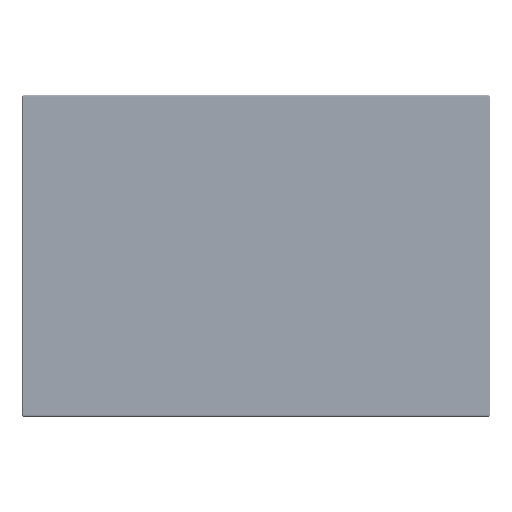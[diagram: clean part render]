
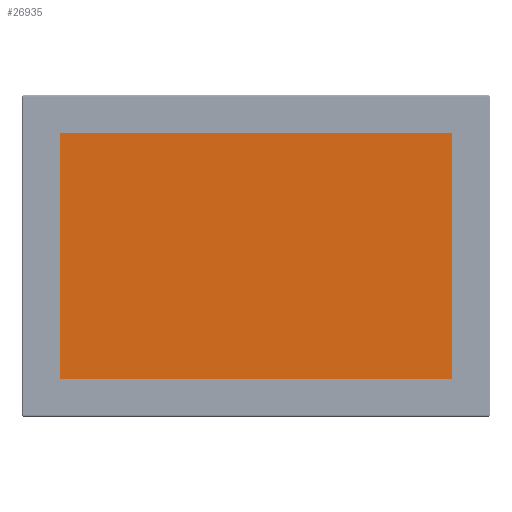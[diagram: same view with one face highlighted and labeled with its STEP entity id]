
A CAD part, top view. The second image highlights one B-rep face of the part: STEP entity #26935.
In plain terms, the highlighted planar face has unit normal (0, 0, 1).
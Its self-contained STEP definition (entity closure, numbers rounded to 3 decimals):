
#2233 = VECTOR ( 'NONE', #28180, 1000. ) ;
#2822 = VECTOR ( 'NONE', #57323, 1000. ) ;
#13463 = VERTEX_POINT ( 'NONE', #87486 ) ;
#15663 = DIRECTION ( 'NONE',  ( 0., -1., 0. ) ) ;
#18583 = DIRECTION ( 'NONE',  ( -1., 0., 0. ) ) ;
#19599 = LINE ( 'NONE', #185845, #189782 ) ;
#25451 = CARTESIAN_POINT ( 'NONE',  ( -131.16, 82.2, 0. ) ) ;
#26935 = ADVANCED_FACE ( 'NONE', ( #111913 ), #172612, .T. ) ;
#28180 = DIRECTION ( 'NONE',  ( 0., 1., 0. ) ) ;
#50367 = CARTESIAN_POINT ( 'NONE',  ( 131.16, 82.2, 0. ) ) ;
#57323 = DIRECTION ( 'NONE',  ( 1., 0., 0. ) ) ;
#59087 = LINE ( 'NONE', #162656, #2233 ) ;
#79077 = EDGE_CURVE ( 'NONE', #13463, #131256, #172799, .T. ) ;
#87237 = CARTESIAN_POINT ( 'NONE',  ( -131.16, -82.2, 0. ) ) ;
#87486 = CARTESIAN_POINT ( 'NONE',  ( 131.16, 82.2, 0. ) ) ;
#87861 = EDGE_LOOP ( 'NONE', ( #184274, #181342, #121861, #110528 ) ) ;
#110528 = ORIENTED_EDGE ( 'NONE', *, *, #159324, .T. ) ;
#111913 = FACE_OUTER_BOUND ( 'NONE', #87861, .T. ) ;
#117302 = CARTESIAN_POINT ( 'NONE',  ( 131.16, -82.2, 0. ) ) ;
#121861 = ORIENTED_EDGE ( 'NONE', *, *, #79077, .T. ) ;
#128840 = EDGE_CURVE ( 'NONE', #151217, #140144, #179797, .T. ) ;
#131256 = VERTEX_POINT ( 'NONE', #25451 ) ;
#131764 = DIRECTION ( 'NONE',  ( 0., 0., 1. ) ) ;
#140144 = VERTEX_POINT ( 'NONE', #117302 ) ;
#149587 = CARTESIAN_POINT ( 'NONE',  ( 0., 0., 0. ) ) ;
#151217 = VERTEX_POINT ( 'NONE', #152063 ) ;
#152063 = CARTESIAN_POINT ( 'NONE',  ( -131.16, -82.2, 0. ) ) ;
#159324 = EDGE_CURVE ( 'NONE', #131256, #151217, #19599, .T. ) ;
#162656 = CARTESIAN_POINT ( 'NONE',  ( 131.16, -82.2, 0. ) ) ;
#172612 = PLANE ( 'NONE',  #178546 ) ;
#172799 = LINE ( 'NONE', #50367, #191279 ) ;
#173522 = EDGE_CURVE ( 'NONE', #140144, #13463, #59087, .T. ) ;
#178546 = AXIS2_PLACEMENT_3D ( 'NONE', #149587, #131764, #191515 ) ;
#179797 = LINE ( 'NONE', #87237, #2822 ) ;
#181342 = ORIENTED_EDGE ( 'NONE', *, *, #173522, .T. ) ;
#184274 = ORIENTED_EDGE ( 'NONE', *, *, #128840, .T. ) ;
#185845 = CARTESIAN_POINT ( 'NONE',  ( -131.16, 82.2, 0. ) ) ;
#189782 = VECTOR ( 'NONE', #15663, 1000. ) ;
#191279 = VECTOR ( 'NONE', #18583, 1000. ) ;
#191515 = DIRECTION ( 'NONE',  ( 1., 0., 0. ) ) ;
